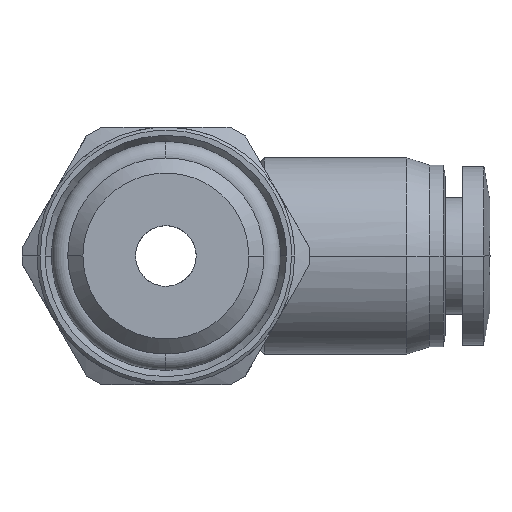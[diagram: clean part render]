
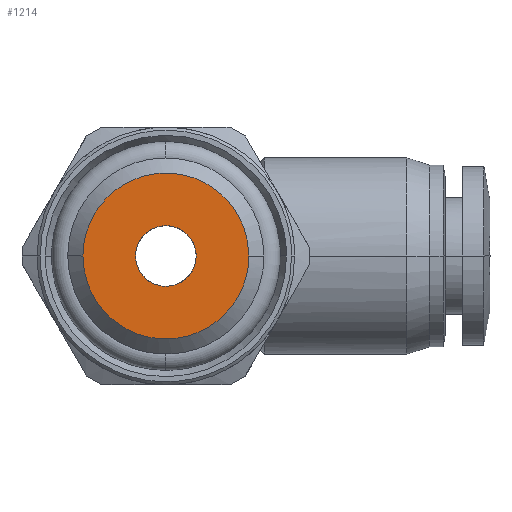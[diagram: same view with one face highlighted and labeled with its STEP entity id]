
A CAD part, front view. The second image highlights one B-rep face of the part: STEP entity #1214.
In plain terms, the highlighted planar face has unit normal (0, -1, 0).
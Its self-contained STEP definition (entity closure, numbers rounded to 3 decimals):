
#81 = CARTESIAN_POINT ( 'NONE',  ( 5.475, -12., 0. ) ) ;
#155 = VERTEX_POINT ( 'NONE', #310 ) ;
#207 = DIRECTION ( 'NONE',  ( 0., 0., -1. ) ) ;
#244 = CARTESIAN_POINT ( 'NONE',  ( 0.718, -12., 5.475 ) ) ;
#310 = CARTESIAN_POINT ( 'NONE',  ( 5.475, -12., 0. ) ) ;
#366 = EDGE_CURVE ( 'NONE', #155, #1706, #530, .T. ) ;
#373 = CARTESIAN_POINT ( 'NONE',  ( 1.227, -12., 1.601 ) ) ;
#386 = B_SPLINE_CURVE_WITH_KNOTS ( 'NONE', 3,
 ( #3031, #3901, #5310, #5746, #3448, #3061, #4796, #1667, #3479, #2200, #1215, #3090, #373, #2640, #1638, #4019, #2534, #5718 ),
 .UNSPECIFIED., .F., .F.,
 ( 4, 2, 2, 2, 2, 2, 2, 2, 4 ),
 ( 0.5, 0.563, 0.625, 0.688, 0.75, 0.813, 0.875, 0.938, 1. ),
 .UNSPECIFIED. ) ;
#530 = B_SPLINE_CURVE_WITH_KNOTS ( 'NONE', 3,
 ( #1630, #2440, #1120, #673, #4261, #2493, #2909, #2880, #244, #2076, #727, #3921, #4731, #4786, #1542, #2550, #3891, #5273 ),
 .UNSPECIFIED., .F., .F.,
 ( 4, 2, 2, 2, 2, 2, 2, 2, 4 ),
 ( 0.5, 0.563, 0.625, 0.688, 0.75, 0.813, 0.875, 0.938, 1. ),
 .UNSPECIFIED. ) ;
#535 = CARTESIAN_POINT ( 'NONE',  ( -1.746, -12., -1.01 ) ) ;
#536 = ORIENTED_EDGE ( 'NONE', *, *, #4173, .T. ) ;
#648 = CARTESIAN_POINT ( 'NONE',  ( 3.363, -12., -4.379 ) ) ;
#673 = CARTESIAN_POINT ( 'NONE',  ( 4.783, -12., 2.759 ) ) ;
#701 = B_SPLINE_CURVE_WITH_KNOTS ( 'NONE', 3,
 ( #2913, #1010, #4178, #2001, #4237, #1549, #1070, #3248, #5603, #2799, #4736, #5160, #648, #1461, #2471, #5520, #5071, #81 ),
 .UNSPECIFIED., .F., .F.,
 ( 4, 2, 2, 2, 2, 2, 2, 2, 4 ),
 ( 0., 0.063, 0.125, 0.188, 0.25, 0.313, 0.375, 0.438, 0.5 ),
 .UNSPECIFIED. ) ;
#727 = CARTESIAN_POINT ( 'NONE',  ( -1.432, -12., 5.333 ) ) ;
#798 = CARTESIAN_POINT ( 'NONE',  ( 1.601, -12., -1.227 ) ) ;
#862 = CARTESIAN_POINT ( 'NONE',  ( -2., -12., 0. ) ) ;
#920 = CARTESIAN_POINT ( 'NONE',  ( 0.265, -12., -2. ) ) ;
#1010 = CARTESIAN_POINT ( 'NONE',  ( -5.475, -12., -0.719 ) ) ;
#1070 = CARTESIAN_POINT ( 'NONE',  ( -2.759, -12., -4.783 ) ) ;
#1120 = CARTESIAN_POINT ( 'NONE',  ( 5.333, -12., 1.432 ) ) ;
#1214 = ADVANCED_FACE ( 'NONE', ( #2921, #5662 ), #3762, .T. ) ;
#1215 = CARTESIAN_POINT ( 'NONE',  ( 0.521, -12., 1.949 ) ) ;
#1307 = CARTESIAN_POINT ( 'NONE',  ( -0.521, -12., -1.949 ) ) ;
#1339 = CARTESIAN_POINT ( 'NONE',  ( -0.265, -12., -2. ) ) ;
#1461 = CARTESIAN_POINT ( 'NONE',  ( 4.379, -12., -3.364 ) ) ;
#1542 = CARTESIAN_POINT ( 'NONE',  ( -4.783, -12., 2.759 ) ) ;
#1549 = CARTESIAN_POINT ( 'NONE',  ( -3.364, -12., -4.379 ) ) ;
#1630 = CARTESIAN_POINT ( 'NONE',  ( 5.475, -12., 0. ) ) ;
#1638 = CARTESIAN_POINT ( 'NONE',  ( 1.746, -12., 1.01 ) ) ;
#1667 = CARTESIAN_POINT ( 'NONE',  ( -0.521, -12., 1.949 ) ) ;
#1706 = VERTEX_POINT ( 'NONE', #3530 ) ;
#1896 = EDGE_LOOP ( 'NONE', ( #3801, #4811 ) ) ;
#2001 = CARTESIAN_POINT ( 'NONE',  ( -4.783, -12., -2.759 ) ) ;
#2034 = DIRECTION ( 'NONE',  ( 0., -1., 0. ) ) ;
#2042 = B_SPLINE_CURVE_WITH_KNOTS ( 'NONE', 3,
 ( #2589, #4408, #3092, #4885, #798, #2507, #2297, #4498, #920, #1339, #1307, #2769, #4587, #3249, #535, #5903, #5041, #862 ),
 .UNSPECIFIED., .F., .F.,
 ( 4, 2, 2, 2, 2, 2, 2, 2, 4 ),
 ( 0., 0.063, 0.125, 0.188, 0.25, 0.313, 0.375, 0.438, 0.5 ),
 .UNSPECIFIED. ) ;
#2076 = CARTESIAN_POINT ( 'NONE',  ( -0.718, -12., 5.475 ) ) ;
#2200 = CARTESIAN_POINT ( 'NONE',  ( 0.265, -12., 2. ) ) ;
#2264 = CARTESIAN_POINT ( 'NONE',  ( 2., -12., 0. ) ) ;
#2297 = CARTESIAN_POINT ( 'NONE',  ( 1.01, -12., -1.746 ) ) ;
#2440 = CARTESIAN_POINT ( 'NONE',  ( 5.475, -12., 0.718 ) ) ;
#2471 = CARTESIAN_POINT ( 'NONE',  ( 4.783, -12., -2.759 ) ) ;
#2493 = CARTESIAN_POINT ( 'NONE',  ( 3.364, -12., 4.379 ) ) ;
#2507 = CARTESIAN_POINT ( 'NONE',  ( 1.227, -12., -1.602 ) ) ;
#2534 = CARTESIAN_POINT ( 'NONE',  ( 2., -12., 0.265 ) ) ;
#2550 = CARTESIAN_POINT ( 'NONE',  ( -5.333, -12., 1.432 ) ) ;
#2589 = CARTESIAN_POINT ( 'NONE',  ( 2., -12., 0. ) ) ;
#2640 = CARTESIAN_POINT ( 'NONE',  ( 1.602, -12., 1.227 ) ) ;
#2769 = CARTESIAN_POINT ( 'NONE',  ( -1.01, -12., -1.746 ) ) ;
#2799 = CARTESIAN_POINT ( 'NONE',  ( 0.718, -12., -5.475 ) ) ;
#2880 = CARTESIAN_POINT ( 'NONE',  ( 1.432, -12., 5.333 ) ) ;
#2909 = CARTESIAN_POINT ( 'NONE',  ( 2.759, -12., 4.783 ) ) ;
#2913 = CARTESIAN_POINT ( 'NONE',  ( -5.475, -12., 0. ) ) ;
#2921 = FACE_BOUND ( 'NONE', #3094, .T. ) ;
#2950 = CARTESIAN_POINT ( 'NONE',  ( -2.737, -12., 0. ) ) ;
#3031 = CARTESIAN_POINT ( 'NONE',  ( -2., -12., 0. ) ) ;
#3061 = CARTESIAN_POINT ( 'NONE',  ( -1.227, -12., 1.602 ) ) ;
#3090 = CARTESIAN_POINT ( 'NONE',  ( 1.01, -12., 1.746 ) ) ;
#3092 = CARTESIAN_POINT ( 'NONE',  ( 1.949, -12., -0.521 ) ) ;
#3094 = EDGE_LOOP ( 'NONE', ( #536, #3696 ) ) ;
#3114 = EDGE_CURVE ( 'NONE', #3170, #5705, #2042, .T. ) ;
#3170 = VERTEX_POINT ( 'NONE', #2264 ) ;
#3248 = CARTESIAN_POINT ( 'NONE',  ( -1.432, -12., -5.333 ) ) ;
#3249 = CARTESIAN_POINT ( 'NONE',  ( -1.602, -12., -1.227 ) ) ;
#3448 = CARTESIAN_POINT ( 'NONE',  ( -1.601, -12., 1.227 ) ) ;
#3479 = CARTESIAN_POINT ( 'NONE',  ( -0.265, -12., 2. ) ) ;
#3530 = CARTESIAN_POINT ( 'NONE',  ( -5.475, -12., 0. ) ) ;
#3568 = AXIS2_PLACEMENT_3D ( 'NONE', #2950, #2034, #207 ) ;
#3696 = ORIENTED_EDGE ( 'NONE', *, *, #3114, .T. ) ;
#3762 = PLANE ( 'NONE',  #3568 ) ;
#3801 = ORIENTED_EDGE ( 'NONE', *, *, #4612, .T. ) ;
#3891 = CARTESIAN_POINT ( 'NONE',  ( -5.475, -12., 0.719 ) ) ;
#3901 = CARTESIAN_POINT ( 'NONE',  ( -2., -12., 0.265 ) ) ;
#3921 = CARTESIAN_POINT ( 'NONE',  ( -2.759, -12., 4.783 ) ) ;
#4019 = CARTESIAN_POINT ( 'NONE',  ( 1.949, -12., 0.521 ) ) ;
#4173 = EDGE_CURVE ( 'NONE', #5705, #3170, #386, .T. ) ;
#4178 = CARTESIAN_POINT ( 'NONE',  ( -5.333, -12., -1.432 ) ) ;
#4237 = CARTESIAN_POINT ( 'NONE',  ( -4.379, -12., -3.363 ) ) ;
#4261 = CARTESIAN_POINT ( 'NONE',  ( 4.379, -12., 3.363 ) ) ;
#4363 = CARTESIAN_POINT ( 'NONE',  ( -2., -12., 0. ) ) ;
#4408 = CARTESIAN_POINT ( 'NONE',  ( 2., -12., -0.265 ) ) ;
#4498 = CARTESIAN_POINT ( 'NONE',  ( 0.521, -12., -1.949 ) ) ;
#4587 = CARTESIAN_POINT ( 'NONE',  ( -1.227, -12., -1.601 ) ) ;
#4612 = EDGE_CURVE ( 'NONE', #1706, #155, #701, .T. ) ;
#4731 = CARTESIAN_POINT ( 'NONE',  ( -3.363, -12., 4.379 ) ) ;
#4736 = CARTESIAN_POINT ( 'NONE',  ( 1.432, -12., -5.333 ) ) ;
#4786 = CARTESIAN_POINT ( 'NONE',  ( -4.379, -12., 3.364 ) ) ;
#4796 = CARTESIAN_POINT ( 'NONE',  ( -1.01, -12., 1.746 ) ) ;
#4811 = ORIENTED_EDGE ( 'NONE', *, *, #366, .T. ) ;
#4885 = CARTESIAN_POINT ( 'NONE',  ( 1.746, -12., -1.01 ) ) ;
#5041 = CARTESIAN_POINT ( 'NONE',  ( -2., -12., -0.265 ) ) ;
#5071 = CARTESIAN_POINT ( 'NONE',  ( 5.475, -12., -0.718 ) ) ;
#5160 = CARTESIAN_POINT ( 'NONE',  ( 2.759, -12., -4.783 ) ) ;
#5273 = CARTESIAN_POINT ( 'NONE',  ( -5.475, -12., 0. ) ) ;
#5310 = CARTESIAN_POINT ( 'NONE',  ( -1.949, -12., 0.521 ) ) ;
#5520 = CARTESIAN_POINT ( 'NONE',  ( 5.333, -12., -1.432 ) ) ;
#5603 = CARTESIAN_POINT ( 'NONE',  ( -0.718, -12., -5.475 ) ) ;
#5662 = FACE_OUTER_BOUND ( 'NONE', #1896, .T. ) ;
#5705 = VERTEX_POINT ( 'NONE', #4363 ) ;
#5718 = CARTESIAN_POINT ( 'NONE',  ( 2., -12., 0. ) ) ;
#5746 = CARTESIAN_POINT ( 'NONE',  ( -1.746, -12., 1.01 ) ) ;
#5903 = CARTESIAN_POINT ( 'NONE',  ( -1.949, -12., -0.521 ) ) ;
